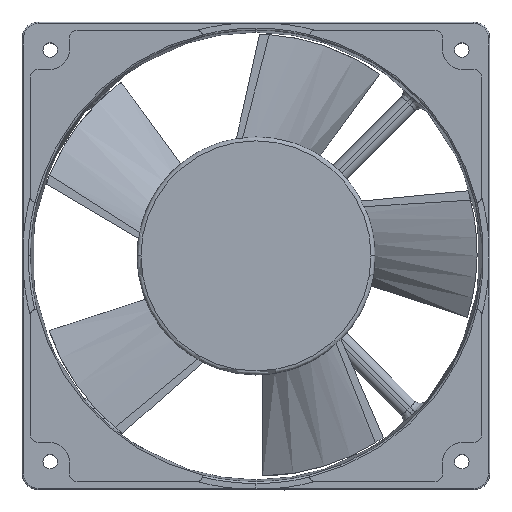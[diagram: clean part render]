
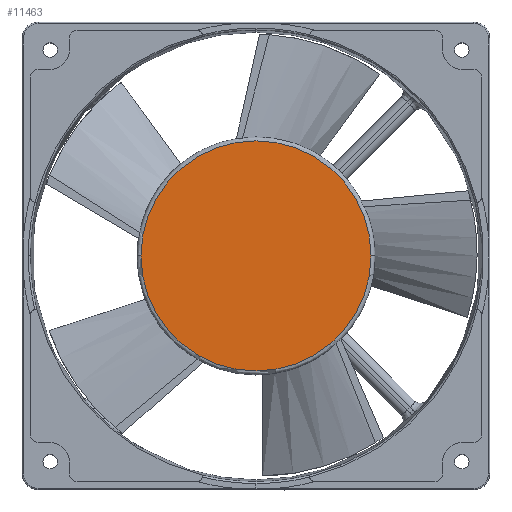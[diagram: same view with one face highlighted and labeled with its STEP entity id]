
A CAD part, top view. The second image highlights one B-rep face of the part: STEP entity #11463.
In plain terms, the highlighted planar face has unit normal (0, 0, 1).
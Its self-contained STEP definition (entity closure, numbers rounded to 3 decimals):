
#272 = CARTESIAN_POINT ( 'NONE',  ( 0., 0., 24.8 ) ) ;
#4652 = DIRECTION ( 'NONE',  ( -1., 0., 0. ) ) ;
#5262 = CARTESIAN_POINT ( 'NONE',  ( -29.3, 0., 24.8 ) ) ;
#5893 = EDGE_CURVE ( 'NONE', #10471, #6255, #17040, .T. ) ;
#6255 = VERTEX_POINT ( 'NONE', #5262 ) ;
#6813 = EDGE_CURVE ( 'NONE', #6255, #10471, #14418, .T. ) ;
#7190 = CARTESIAN_POINT ( 'NONE',  ( 29.3, 0., 24.8 ) ) ;
#7438 = DIRECTION ( 'NONE',  ( -1., 0., 0. ) ) ;
#7444 = DIRECTION ( 'NONE',  ( 0., 0., -1. ) ) ;
#7466 = CARTESIAN_POINT ( 'NONE',  ( 0., 0., 24.8 ) ) ;
#7780 = EDGE_LOOP ( 'NONE', ( #9147, #14844 ) ) ;
#8143 = DIRECTION ( 'NONE',  ( 1., 0., 0. ) ) ;
#8815 = PLANE ( 'NONE',  #15148 ) ;
#9031 = FACE_OUTER_BOUND ( 'NONE', #7780, .T. ) ;
#9147 = ORIENTED_EDGE ( 'NONE', *, *, #6813, .F. ) ;
#10471 = VERTEX_POINT ( 'NONE', #7190 ) ;
#11463 = ADVANCED_FACE ( 'NONE', ( #9031 ), #8815, .T. ) ;
#13795 = CARTESIAN_POINT ( 'NONE',  ( 0., 0., 24.8 ) ) ;
#14008 = AXIS2_PLACEMENT_3D ( 'NONE', #7466, #7444, #7438 ) ;
#14418 = CIRCLE ( 'NONE', #14891, 29.3 ) ;
#14844 = ORIENTED_EDGE ( 'NONE', *, *, #5893, .F. ) ;
#14891 = AXIS2_PLACEMENT_3D ( 'NONE', #13795, #18153, #4652 ) ;
#15148 = AXIS2_PLACEMENT_3D ( 'NONE', #272, #18007, #8143 ) ;
#17040 = CIRCLE ( 'NONE', #14008, 29.3 ) ;
#18007 = DIRECTION ( 'NONE',  ( 0., 0., 1. ) ) ;
#18153 = DIRECTION ( 'NONE',  ( 0., 0., -1. ) ) ;
